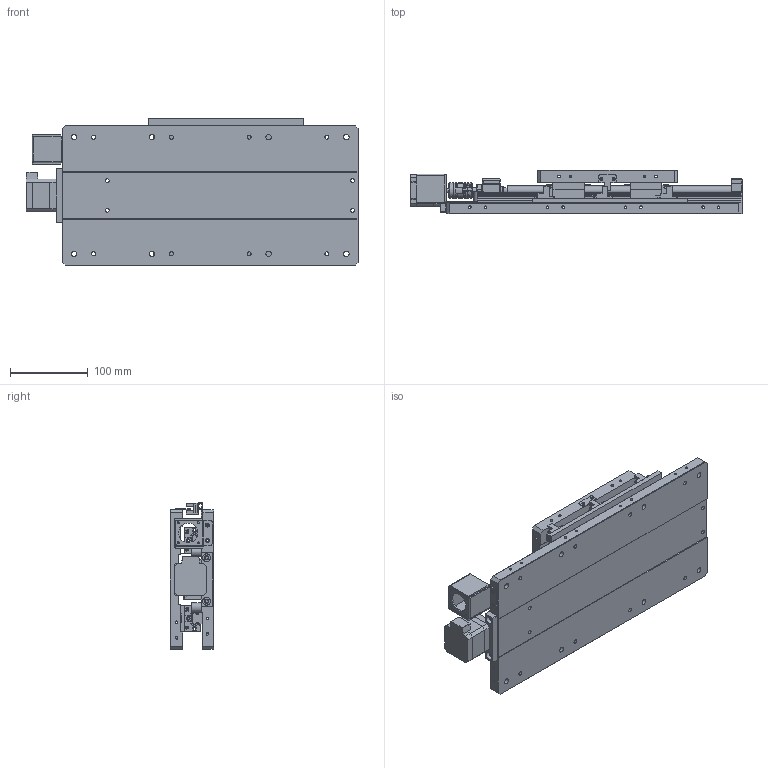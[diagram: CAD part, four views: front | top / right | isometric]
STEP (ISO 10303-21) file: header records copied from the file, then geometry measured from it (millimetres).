
FILE_DESCRIPTION (( 'STEP AP203' ), '1' );
FILE_NAME ('OME-TAB18-XA-1505-P-M42-S001.STEP', '2023-09-19T01:43:49', ( '' ), ( '' ), 'SwSTEP 2.0', 'SolidWorks 2020', '' );
FILE_SCHEMA (( 'CONFIG_CONTROL_DESIGN' ));
Length unit declared in the file: millimetre
Products named in the file (1): OME-TAB18-XA-1505-P-M42-S001
Bounding box: 427 x 55.5 x 189 mm (x, y, z)
Surface area: 358312 mm2 (no closed solid volume)
Topology: 0 solids, 77 shells, 1036 faces, 4615 edges, 3596 vertices
Faces by surface type: plane 567, cylinder 376, cone 72, bspline 21
Full cylindrical faces by diameter (mm): 1 x3, 2.5 x36, 2.6 x2, 3.1 x8, 3.3 x48, 3.5 x16, 4 x6, 4.5 x1, 5 x27, 5.7 x1, 6 x7, 6.5 x4, 6.6 x2, 7 x8, 7.5 x8, 8 x22, 10 x2, 11 x12, 11.5 x1, 12 x6, 13.5 x2, 16.1 x1, 17 x1, 23 x1, 25 x1, 28 x1
Entity records: 48345 total; most frequent: CARTESIAN_POINT 12337, DIRECTION 7253, ORIENTED_EDGE 6039, EDGE_CURVE 4272, VERTEX_POINT 3523, LINE 2725, VECTOR 2725, AXIS2_PLACEMENT_3D 2264
